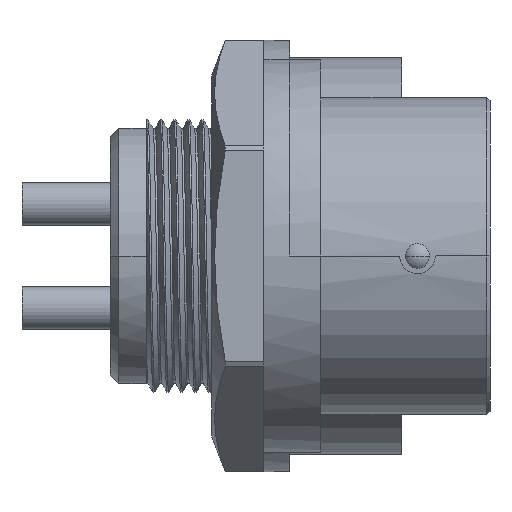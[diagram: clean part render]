
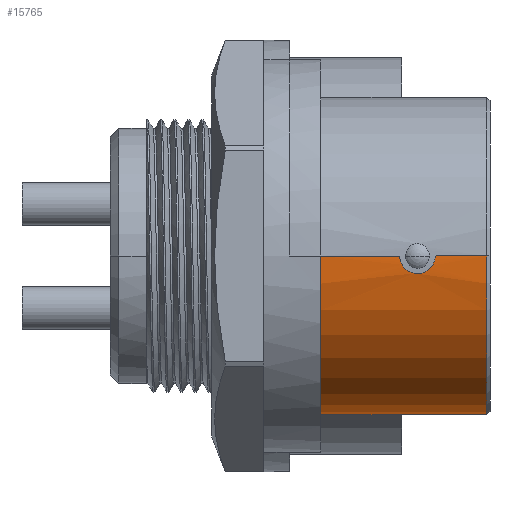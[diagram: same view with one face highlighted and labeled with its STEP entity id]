
A CAD part, front view. The second image highlights one B-rep face of the part: STEP entity #15765.
In plain terms, the highlighted cylindrical face has radius 9.2 mm (diameter 18.4 mm), a partial arc.
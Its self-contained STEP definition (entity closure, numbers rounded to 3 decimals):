
#4144=CARTESIAN_POINT('',(1.8,0.,0.));
#4145=DIRECTION('',(1.,0.,0.));
#4146=DIRECTION('',(0.,-1.,0.));
#4147=AXIS2_PLACEMENT_3D('',#4144,#4145,#4146);
#4159=DIRECTION('',(1.,0.,0.));
#4160=VECTOR('',#4159,8.);
#4161=CARTESIAN_POINT('',(1.8,9.2,0.));
#4162=LINE('',#4161,#4160);
#4163=CARTESIAN_POINT('',(9.8,9.2,0.));
#4175=CARTESIAN_POINT('',(10.8,9.2,0.));
#4177=DIRECTION('',(1.,0.,0.));
#4178=VECTOR('',#4177,0.6);
#4179=CARTESIAN_POINT('',(10.8,9.2,0.));
#4180=LINE('',#4179,#4178);
#4262=DIRECTION('',(1.,0.,0.));
#4263=VECTOR('',#4262,2.975);
#4264=CARTESIAN_POINT('',(8.425,-9.2,0.));
#4265=LINE('',#4264,#4263);
#4266=CARTESIAN_POINT('',(11.4,0.,0.));
#4267=DIRECTION('',(1.,0.,0.));
#4268=DIRECTION('',(0.,-1.,0.));
#4269=AXIS2_PLACEMENT_3D('',#4266,#4267,#4268);
#4271=CARTESIAN_POINT('',(10.8,9.2,0.));
#4272=CARTESIAN_POINT('',(10.8,9.2,-0.055));
#4273=CARTESIAN_POINT('',(10.783,9.199,
-0.158));
#4274=CARTESIAN_POINT('',(10.71,9.195,
-0.3));
#4275=CARTESIAN_POINT('',(10.6,9.191,
-0.41));
#4276=CARTESIAN_POINT('',(10.461,9.187,
-0.482));
#4277=CARTESIAN_POINT('',(10.302,9.186,
-0.509));
#4278=CARTESIAN_POINT('',(10.144,9.187,
-0.483));
#4279=CARTESIAN_POINT('',(10.003,9.191,
-0.413));
#4280=CARTESIAN_POINT('',(9.891,9.195,
-0.302));
#4281=CARTESIAN_POINT('',(9.817,9.199,
-0.158));
#4282=CARTESIAN_POINT('',(9.8,9.2,-0.055));
#4283=CARTESIAN_POINT('',(9.8,9.2,0.));
#4285=DIRECTION('',(1.,0.,0.));
#4286=VECTOR('',#4285,4.575);
#4287=CARTESIAN_POINT('',(1.8,-9.2,0.));
#4288=LINE('',#4287,#4286);
#4289=CARTESIAN_POINT('',(6.375,-9.2,0.));
#4290=CARTESIAN_POINT('',(6.375,-9.2,-0.073));
#4291=CARTESIAN_POINT('',(6.39,-9.198,
-0.214));
#4292=CARTESIAN_POINT('',(6.457,-9.191,
-0.42));
#4293=CARTESIAN_POINT('',(6.565,-9.18,
-0.607));
#4294=CARTESIAN_POINT('',(6.709,-9.168,
-0.767));
#4295=CARTESIAN_POINT('',(6.884,-9.157,
-0.894));
#4296=CARTESIAN_POINT('',(7.08,-9.148,
-0.982));
#4297=CARTESIAN_POINT('',(7.293,-9.143,
-1.027));
#4298=CARTESIAN_POINT('',(7.507,-9.143,
-1.027));
#4299=CARTESIAN_POINT('',(7.72,-9.148,
-0.982));
#4300=CARTESIAN_POINT('',(7.916,-9.157,
-0.894));
#4301=CARTESIAN_POINT('',(8.091,-9.168,
-0.767));
#4302=CARTESIAN_POINT('',(8.235,-9.18,
-0.607));
#4303=CARTESIAN_POINT('',(8.343,-9.191,
-0.42));
#4304=CARTESIAN_POINT('',(8.41,-9.198,
-0.214));
#4305=CARTESIAN_POINT('',(8.425,-9.2,-0.073));
#4306=CARTESIAN_POINT('',(8.425,-9.2,0.));
#4308=CARTESIAN_POINT('',(6.715,4.6,-7.967));
#4309=CARTESIAN_POINT('',(6.715,4.642,-7.943));
#4310=CARTESIAN_POINT('',(6.724,4.725,-7.894));
#4311=CARTESIAN_POINT('',(6.766,4.845,-7.821));
#4312=CARTESIAN_POINT('',(6.836,4.954,-7.753));
#4313=CARTESIAN_POINT('',(6.929,5.048,-7.692));
#4314=CARTESIAN_POINT('',(7.045,5.124,-7.641));
#4315=CARTESIAN_POINT('',(7.178,5.177,-7.605));
#4316=CARTESIAN_POINT('',(7.324,5.205,-7.586));
#4317=CARTESIAN_POINT('',(7.473,5.205,-7.586));
#4318=CARTESIAN_POINT('',(7.62,5.178,-7.605));
#4319=CARTESIAN_POINT('',(7.754,5.124,-7.641));
#4320=CARTESIAN_POINT('',(7.871,5.048,-7.692));
#4321=CARTESIAN_POINT('',(7.964,4.954,-7.753));
#4322=CARTESIAN_POINT('',(8.034,4.845,-7.821));
#4323=CARTESIAN_POINT('',(8.076,4.725,-7.894));
#4324=CARTESIAN_POINT('',(8.085,4.642,-7.943));
#4325=CARTESIAN_POINT('',(8.085,4.6,-7.967));
#4327=CARTESIAN_POINT('',(8.085,4.6,-7.967));
#4328=CARTESIAN_POINT('',(8.085,4.558,-7.992));
#4329=CARTESIAN_POINT('',(8.076,4.474,-8.039));
#4330=CARTESIAN_POINT('',(8.034,4.351,-8.106));
#4331=CARTESIAN_POINT('',(7.964,4.237,-8.166));
#4332=CARTESIAN_POINT('',(7.871,4.137,-8.217));
#4333=CARTESIAN_POINT('',(7.755,4.055,-8.258));
#4334=CARTESIAN_POINT('',(7.622,3.998,-8.286));
#4335=CARTESIAN_POINT('',(7.476,3.967,-8.301));
#4336=CARTESIAN_POINT('',(7.327,3.967,-8.301));
#4337=CARTESIAN_POINT('',(7.18,3.997,-8.286));
#4338=CARTESIAN_POINT('',(7.046,4.055,-8.258));
#4339=CARTESIAN_POINT('',(6.929,4.137,-8.218));
#4340=CARTESIAN_POINT('',(6.836,4.237,-8.167));
#4341=CARTESIAN_POINT('',(6.766,4.351,-8.106));
#4342=CARTESIAN_POINT('',(6.724,4.474,-8.039));
#4343=CARTESIAN_POINT('',(6.715,4.558,-7.992));
#4344=CARTESIAN_POINT('',(6.715,4.6,-7.967));
#5456=CARTESIAN_POINT('',(11.4,9.2,
0.));
#5457=VERTEX_POINT('',#5456);
#5458=CARTESIAN_POINT('',(11.4,-9.2,
0.));
#5459=VERTEX_POINT('',#5458);
#5460=VERTEX_POINT('',#4163);
#5461=VERTEX_POINT('',#4175);
#5462=CARTESIAN_POINT('',(1.8,9.2,0.));
#5463=CARTESIAN_POINT('',(1.8,-9.2,0.));
#5464=VERTEX_POINT('',#5462);
#5465=VERTEX_POINT('',#5463);
#5523=CARTESIAN_POINT('',(8.085,4.6,-7.967));
#5525=VERTEX_POINT('',#5523);
#5528=CARTESIAN_POINT('',(6.715,4.6,-7.967));
#5529=VERTEX_POINT('',#5528);
#5540=VERTEX_POINT('',#4289);
#5541=VERTEX_POINT('',#4306);
#15742=CARTESIAN_POINT('',(-11.5,0.,0.));
#15743=DIRECTION('',(1.,0.,0.));
#15744=DIRECTION('',(0.,-1.,0.));
#15745=AXIS2_PLACEMENT_3D('',#15742,#15743,#15744);
#15746=CYLINDRICAL_SURFACE('',#15745,9.2);
#15747=ORIENTED_EDGE('',*,*,#15712,.T.);
#15749=ORIENTED_EDGE('',*,*,#15748,.T.);
#15750=ORIENTED_EDGE('',*,*,#15723,.F.);
#15752=ORIENTED_EDGE('',*,*,#15751,.T.);
#15753=ORIENTED_EDGE('',*,*,#15719,.F.);
#15754=ORIENTED_EDGE('',*,*,#15702,.F.);
#15755=ORIENTED_EDGE('',*,*,#15716,.T.);
#15756=ORIENTED_EDGE('',*,*,#15714,.T.);
#15757=EDGE_LOOP('',(#15747,#15749,#15750,#15752,#15753,#15754,#15755,#15756));
#15758=FACE_OUTER_BOUND('',#15757,.F.);
#15760=ORIENTED_EDGE('',*,*,#15759,.T.);
#15762=ORIENTED_EDGE('',*,*,#15761,.T.);
#15763=EDGE_LOOP('',(#15760,#15762));
#15764=FACE_BOUND('',#15763,.F.);
#15765=ADVANCED_FACE('',(#15758,#15764),#15746,.T.);
#4148=CIRCLE('',#4147,9.2);
#4270=CIRCLE('',#4269,9.2);
#4284=B_SPLINE_CURVE_WITH_KNOTS('',3,(#4271,#4272,#4273,#4274,#4275,#4276,#4277,
#4278,#4279,#4280,#4281,#4282,#4283),.UNSPECIFIED.,.F.,.F.,(4,1,1,1,1,1,1,1,1,1,
4),(0.,0.1,0.2,0.3,0.4,0.5,0.6,0.7,0.8,0.9,1.),
.UNSPECIFIED.);
#4307=B_SPLINE_CURVE_WITH_KNOTS('',3,(#4289,#4290,#4291,#4292,#4293,#4294,#4295,
#4296,#4297,#4298,#4299,#4300,#4301,#4302,#4303,#4304,#4305,#4306),
.UNSPECIFIED.,.F.,.F.,(4,1,1,1,1,1,1,1,1,1,1,1,1,1,1,4),(0.,0.067,
0.133,0.2,0.267,0.333,0.4,
0.467,0.533,0.6,0.667,0.733,
0.8,0.867,0.933,1.),.UNSPECIFIED.);
#4326=B_SPLINE_CURVE_WITH_KNOTS('',3,(#4308,#4309,#4310,#4311,#4312,#4313,#4314,
#4315,#4316,#4317,#4318,#4319,#4320,#4321,#4322,#4323,#4324,#4325),
.UNSPECIFIED.,.F.,.F.,(4,1,1,1,1,1,1,1,1,1,1,1,1,1,1,4),(0.,0.067,
0.133,0.2,0.267,0.333,0.4,
0.467,0.533,0.6,0.667,0.733,
0.8,0.867,0.933,1.),.UNSPECIFIED.);
#4345=B_SPLINE_CURVE_WITH_KNOTS('',3,(#4327,#4328,#4329,#4330,#4331,#4332,#4333,
#4334,#4335,#4336,#4337,#4338,#4339,#4340,#4341,#4342,#4343,#4344),
.UNSPECIFIED.,.F.,.F.,(4,1,1,1,1,1,1,1,1,1,1,1,1,1,1,4),(0.,0.067,
0.133,0.2,0.267,0.333,0.4,
0.467,0.533,0.6,0.667,0.733,
0.8,0.867,0.933,1.),.UNSPECIFIED.);
#15702=EDGE_CURVE('',#5465,#5464,#4148,.T.);
#15712=EDGE_CURVE('',#5541,#5459,#4265,.T.);
#15714=EDGE_CURVE('',#5540,#5541,#4307,.T.);
#15716=EDGE_CURVE('',#5465,#5540,#4288,.T.);
#15719=EDGE_CURVE('',#5464,#5460,#4162,.T.);
#15723=EDGE_CURVE('',#5461,#5457,#4180,.T.);
#15748=EDGE_CURVE('',#5459,#5457,#4270,.T.);
#15751=EDGE_CURVE('',#5461,#5460,#4284,.T.);
#15759=EDGE_CURVE('',#5529,#5525,#4326,.T.);
#15761=EDGE_CURVE('',#5525,#5529,#4345,.T.);
